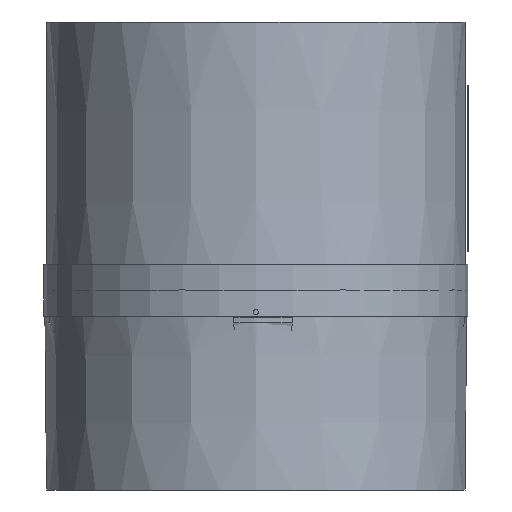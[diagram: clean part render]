
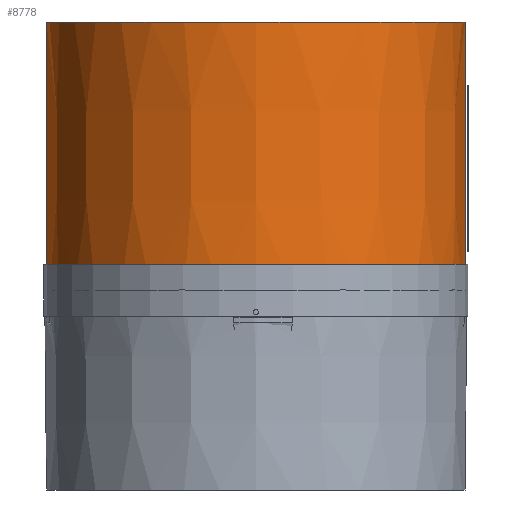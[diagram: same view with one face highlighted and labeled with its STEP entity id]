
A CAD part, front view. The second image highlights one B-rep face of the part: STEP entity #8778.
In plain terms, the highlighted conical face has half-angle 0.067 degrees and reference radius 100.75 mm.
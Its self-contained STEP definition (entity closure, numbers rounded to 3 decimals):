
#1019 = CARTESIAN_POINT ( 'NONE',  ( 100.75, 0., 156.3 ) ) ;
#1037 = DIRECTION ( 'NONE',  ( 0.001, 0., -1. ) ) ;
#1044 = CARTESIAN_POINT ( 'NONE',  ( 0., 0., 285.3 ) ) ;
#1045 = DIRECTION ( 'NONE',  ( 0., 0., 1. ) ) ;
#1046 = DIRECTION ( 'NONE',  ( -1., 0., 0. ) ) ;
#1090 = CARTESIAN_POINT ( 'NONE',  ( 0., 0., 156.3 ) ) ;
#1091 = DIRECTION ( 'NONE',  ( 0., 0., 1. ) ) ;
#1092 = DIRECTION ( 'NONE',  ( -1., 0., 0. ) ) ;
#1421 = ORIENTED_EDGE ( 'NONE', *, *, #9376, .T. ) ;
#1590 = VERTEX_POINT ( 'NONE', #5933 ) ;
#1601 = CIRCLE ( 'NONE', #2707, 100.6 ) ;
#1605 = LINE ( 'NONE', #1019, #1607 ) ;
#1607 = VECTOR ( 'NONE', #1037, 1000. ) ;
#1625 = CIRCLE ( 'NONE', #2715, 100.75 ) ;
#2707 = AXIS2_PLACEMENT_3D ( 'NONE', #1044, #1045, #1046 ) ;
#2715 = AXIS2_PLACEMENT_3D ( 'NONE', #1090, #1091, #1092 ) ;
#4427 = AXIS2_PLACEMENT_3D ( 'NONE', #7267, #7265, #7260 ) ;
#5933 = CARTESIAN_POINT ( 'NONE',  ( 100.75, 0., 156.3 ) ) ;
#6744 = CARTESIAN_POINT ( 'NONE',  ( 100.6, 0., 285.3 ) ) ;
#7260 = DIRECTION ( 'NONE',  ( 1., 0., 0. ) ) ;
#7265 = DIRECTION ( 'NONE',  ( 0., 0., -1. ) ) ;
#7267 = CARTESIAN_POINT ( 'NONE',  ( 0., 0., 156.3 ) ) ;
#7550 = EDGE_CURVE ( 'NONE', #10360, #8537, #1601, .T. ) ;
#7554 = EDGE_CURVE ( 'NONE', #8537, #1590, #1605, .T. ) ;
#7568 = EDGE_CURVE ( 'NONE', #10144, #1590, #1625, .T. ) ;
#8326 = FACE_OUTER_BOUND ( 'NONE', #9674, .T. ) ;
#8332 = CONICAL_SURFACE ( 'NONE', #4427, 100.75, 0.001 ) ;
#8446 = ORIENTED_EDGE ( 'NONE', *, *, #7568, .T. ) ;
#8450 = ORIENTED_EDGE ( 'NONE', *, *, #7550, .F. ) ;
#8457 = ORIENTED_EDGE ( 'NONE', *, *, #7554, .F. ) ;
#8537 = VERTEX_POINT ( 'NONE', #6744 ) ;
#8778 = ADVANCED_FACE ( 'NONE', ( #8326 ), #8332, .T. ) ;
#9032 = CARTESIAN_POINT ( 'NONE',  ( -100.75, 0., 156.3 ) ) ;
#9033 = DIRECTION ( 'NONE',  ( -0.001, 0., -1. ) ) ;
#9294 = CARTESIAN_POINT ( 'NONE',  ( -100.75, 0., 156.3 ) ) ;
#9376 = EDGE_CURVE ( 'NONE', #10360, #10144, #9455, .T. ) ;
#9455 = LINE ( 'NONE', #9032, #9458 ) ;
#9458 = VECTOR ( 'NONE', #9033, 1000. ) ;
#9674 = EDGE_LOOP ( 'NONE', ( #8450, #1421, #8446, #8457 ) ) ;
#10144 = VERTEX_POINT ( 'NONE', #9294 ) ;
#10360 = VERTEX_POINT ( 'NONE', #10644 ) ;
#10644 = CARTESIAN_POINT ( 'NONE',  ( -100.6, 0., 285.3 ) ) ;
